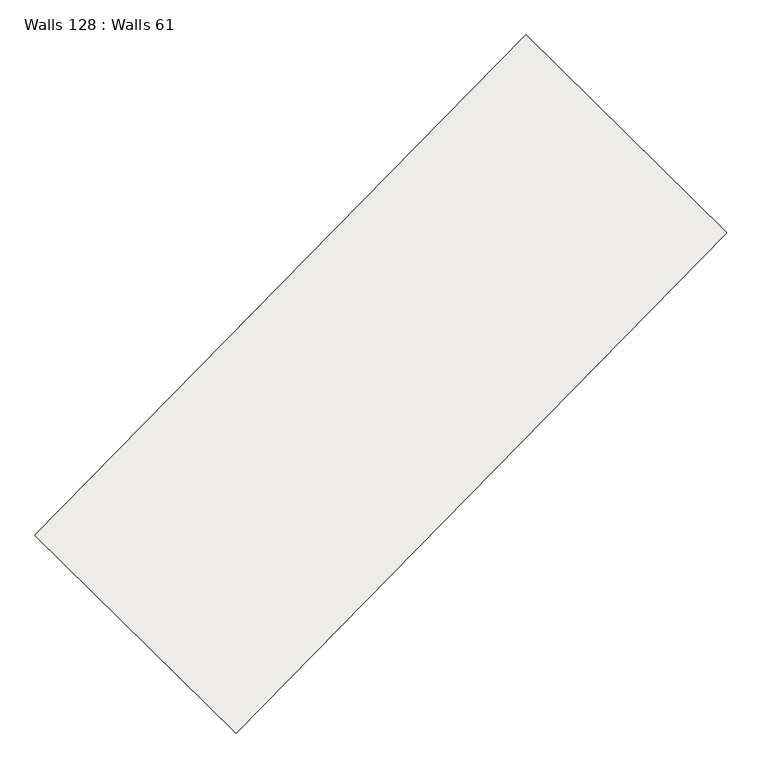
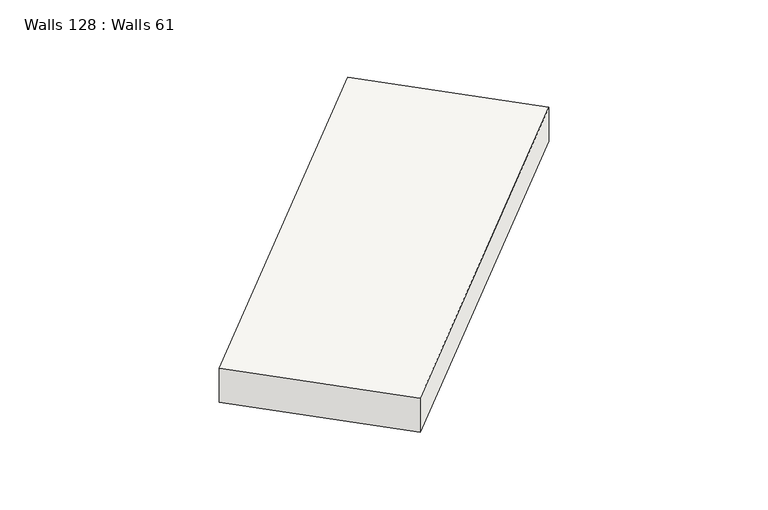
"""IFC4 building model written with IfcOpenShell, lengths in millimetres: slab geometry, Walls 128 : Walls 61."""

import ifcopenshell
import ifcopenshell.guid

model = None  # the IFC model being written
_history = None  # IfcOwnerHistory: only IFC2X3 demands one
_inside = {}  # id of a spatial element -> (the spatial element, [elements in it])
_under = {}  # id of a project, library or spatial element -> (it, [spatial elements below it])
_declared = {}  # id of a project -> (the project, [libraries it declares])
_typed = {}  # id of a type object -> (the type object, [elements of that type])
_made_of = {}  # id of a material, layer set ... -> (it, [elements and type objects made of it])


def new_model(schema):
    """Start an empty IFC model of exactly this schema.

    Asked for "IFC4X3", IfcOpenShell would pick the latest addendum, in which some entities
    have other attributes; the version numbers below select the first issue.
    IFC2X3 requires an IfcOwnerHistory on every rooted entity: one is made here for all.
    """
    global model, _history
    if schema == "IFC4X3":
        model = ifcopenshell.file(schema_version=(4, 3, 0, 0))
    else:
        model = ifcopenshell.file(schema=schema)
    _inside.clear()
    _under.clear()
    _declared.clear()
    _typed.clear()
    _made_of.clear()
    _history = None
    if model.schema == "IFC2X3":
        org = make("IfcOrganization", Name="unknown")
        user = make(
            "IfcPersonAndOrganization",
            ThePerson=make("IfcPerson", FamilyName="unknown"),
            TheOrganization=org,
        )
        app = make(
            "IfcApplication",
            ApplicationDeveloper=org,
            Version="unknown",
            ApplicationFullName="unknown",
            ApplicationIdentifier="unknown",
        )
        _history = make(
            "IfcOwnerHistory",
            OwningUser=user,
            OwningApplication=app,
            ChangeAction="ADDED",
            CreationDate=0,
        )
    return model


def make(cls, **values):
    """One entity of the class cls with the attributes given. An attribute that is None is left unset."""
    return model.create_entity(
        cls, **{name: value for name, value in values.items() if value is not None}
    )


def rooted(cls, **values):
    """An entity with a GlobalId (a new one), such as an element, a storey or a relation."""
    return make(cls, GlobalId=ifcopenshell.guid.new(), OwnerHistory=_history, **values)


def si_unit(unit_type, name, prefix=None):
    """IfcSIUnit, for example si_unit("LENGTHUNIT", "METRE", prefix="MILLI")."""
    return make("IfcSIUnit", UnitType=unit_type, Prefix=prefix, Name=name)


def assignment(units):
    """IfcUnitAssignment: the units of a project."""
    return None if units is None else make("IfcUnitAssignment", Units=units)


def point(xyz):
    """IfcCartesianPoint."""
    return None if xyz is None else make("IfcCartesianPoint", Coordinates=xyz)


def direction(xyz):
    """IfcDirection."""
    return None if xyz is None else make("IfcDirection", DirectionRatios=xyz)


def frame(location, z_axis=None, x_axis=None):
    """IfcAxis2Placement3D, a coordinate frame: its origin and axes. An axis left out is left unset."""
    return make(
        "IfcAxis2Placement3D",
        Location=point(location),
        Axis=direction(z_axis),
        RefDirection=direction(x_axis),
    )


def origin():
    """The frame at (0, 0, 0) with its axes left unset."""
    return frame((0.0, 0.0, 0.0))


def place(relative_to, where):
    """IfcLocalPlacement: puts the frame where relative to a parent placement (None: the world)."""
    return make(
        "IfcLocalPlacement", PlacementRelTo=relative_to, RelativePlacement=where
    )


def context(
    kind, dimensions, precision=None, world=None, true_north=None, identifier=None
):
    """IfcGeometricRepresentationContext, for example the 3D "Model" context."""
    return make(
        "IfcGeometricRepresentationContext",
        ContextIdentifier=identifier,
        ContextType=kind,
        CoordinateSpaceDimension=dimensions,
        Precision=precision,
        WorldCoordinateSystem=world,
        TrueNorth=true_north,
    )


def project(units=None, contexts=None):
    """IfcProject with its units and contexts."""
    return rooted(
        "IfcProject",
        Name="project",
        RepresentationContexts=contexts,
        UnitsInContext=assignment(units),
    )


def spatial(cls, under=None, at=None, **own):
    """A site, building, storey or space (cls), placed at a placement, below another one or the project."""
    s = rooted(cls, ObjectPlacement=at, **own)
    if under is not None:
        _under.setdefault(under.id(), (under, []))[1].append(s)
    return s


def polyline(points):
    """IfcPolyline through the points."""
    return make("IfcPolyline", Points=[point(p) for p in points])


def outline(outer, holes=None, kind="AREA"):
    """IfcArbitraryClosedProfileDef: a profile drawn as a closed curve; with holes, ...WithVoids."""
    if holes is None:
        return make("IfcArbitraryClosedProfileDef", ProfileType=kind, OuterCurve=outer)
    return make(
        "IfcArbitraryProfileDefWithVoids",
        ProfileType=kind,
        OuterCurve=outer,
        InnerCurves=holes,
    )


def extrude(swept, where, along, depth):
    """IfcExtrudedAreaSolid: the profile swept, set in the frame where, extruded along a direction by depth."""
    return make(
        "IfcExtrudedAreaSolid",
        SweptArea=swept,
        Position=where,
        ExtrudedDirection=direction(along),
        Depth=depth,
    )


def shape(context_of_items, identifier, shape_type, items):
    """IfcShapeRepresentation: the items that make up one representation, for example the "Body"."""
    return make(
        "IfcShapeRepresentation",
        ContextOfItems=context_of_items,
        RepresentationIdentifier=identifier,
        RepresentationType=shape_type,
        Items=items,
    )


def source(mapping_origin, context_of_items, identifier, shape_type, items):
    """IfcRepresentationMap: a shape defined once, which mapped items show again and again."""
    return make(
        "IfcRepresentationMap",
        MappingOrigin=mapping_origin,
        MappedRepresentation=shape(context_of_items, identifier, shape_type, items),
    )


def transform(
    local_origin,
    x_axis=None,
    y_axis=None,
    z_axis=None,
    scale=None,
    scale2=None,
    scale3=None,
    uniform=True,
):
    """IfcCartesianTransformationOperator3D, or its non-uniform kind. x_axis, y_axis, z_axis: its Axis1, 2, 3."""
    if uniform:
        return make(
            "IfcCartesianTransformationOperator3D",
            Axis1=direction(x_axis),
            Axis2=direction(y_axis),
            LocalOrigin=point(local_origin),
            Scale=scale,
            Axis3=direction(z_axis),
        )
    return make(
        "IfcCartesianTransformationOperator3DnonUniform",
        Axis1=direction(x_axis),
        Axis2=direction(y_axis),
        LocalOrigin=point(local_origin),
        Scale=scale,
        Axis3=direction(z_axis),
        Scale2=scale2,
        Scale3=scale3,
    )


def mapped(mapping_source, mapping_target):
    """IfcMappedItem: shows the shape of a source again, moved by a transform."""
    return make(
        "IfcMappedItem", MappingSource=mapping_source, MappingTarget=mapping_target
    )


def made_of(thing, what):
    """Note that an element or type object is made of a material, layer set ...; save() writes the relation."""
    if what is not None:
        _made_of.setdefault(what.id(), (what, []))[1].append(thing)
    return thing


def element(
    cls,
    number,
    at=None,
    inside=None,
    cuts=None,
    type_object=None,
    material=None,
    context=None,
    identifier="Body",
    shape_type=None,
    held_by="IfcProductDefinitionShape",
    body=None,
    shapes=None,
    **own,
):
    """One element of the class cls, such as IfcWall. Its Tag is "e" and its number.

    at: its placement. inside: the storey or other place that contains it. cuts: it is an
    opening in that element (IfcRelVoidsElement). A single representation is given by context,
    identifier, shape_type and body (its items); several are given by shapes. held_by: the class
    of the entity that holds the representations. save() writes the other relations.
    """
    e = rooted(cls, Tag="e%d" % number, ObjectPlacement=at, **own)
    if body is not None:
        shapes = [shape(context, identifier, shape_type, body)]
    if shapes is not None:
        e.Representation = make(held_by, Representations=shapes)
    if inside is not None:
        _inside.setdefault(inside.id(), (inside, []))[1].append(e)
    if cuts is not None:
        rooted(
            "IfcRelVoidsElement", RelatingBuildingElement=cuts, RelatedOpeningElement=e
        )
    if type_object is not None:
        _typed.setdefault(type_object.id(), (type_object, []))[1].append(e)
    return made_of(e, material)


def aggregate(whole, parts):
    """IfcRelAggregates: a whole, such as a stair, and the parts it consists of."""
    return rooted("IfcRelAggregates", RelatingObject=whole, RelatedObjects=parts)


def save(model, path):
    """Write the relations noted so far, then the file.

    IfcRelAggregates (storeys below a building ...), IfcRelContainedInSpatialStructure (elements
    in a storey), IfcRelDefinesByType, IfcRelAssociatesMaterial and IfcRelDeclares: one each for
    every whole, place, type object, material and project.
    """
    for whole, parts in _under.values():
        aggregate(whole, parts)
    for where, things in _inside.values():
        rooted(
            "IfcRelContainedInSpatialStructure",
            RelatedElements=things,
            RelatingStructure=where,
        )
    for kind, things in _typed.values():
        rooted("IfcRelDefinesByType", RelatedObjects=things, RelatingType=kind)
    for what, things in _made_of.values():
        rooted("IfcRelAssociatesMaterial", RelatedObjects=things, RelatingMaterial=what)
    for by, libraries in _declared.values():
        rooted("IfcRelDeclares", RelatingContext=by, RelatedDefinitions=libraries)
    model.write(path)


def walls_128_walls_61_11bc97e2(model_context):
    return source(origin(), model_context, "Body", "SweptSolid", [
        extrude(outline(polyline([(-350.0, 0.0), (350.0, 0.0), (260.0, -8700.0000009), (-440.0, -8700.0000009), (-350.0, 0.0)])), frame((-12208.7816663, -171643.1170511, 638270.0), z_axis=(-0.7137361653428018, 0.7004146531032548, 0.0), x_axis=(0.0, 0.0, 1.0)), (0.0, 0.0, 1.0), 3499.999995),
    ])


if __name__ == "__main__":
    model = new_model("IFC4")
    model_context = context("Model", 3, world=origin())
    ifc_project = project(units=[si_unit("LENGTHUNIT", "METRE", prefix="MILLI")], contexts=[model_context])
    site = spatial("IfcSite", under=ifc_project)
    building = spatial("IfcBuilding", under=site)
    placement = place(None, origin())
    walls_128_walls_61_shape = walls_128_walls_61_11bc97e2(model_context)
    element("IfcSlab", 1, ObjectType="Walls 128 : Walls 61", at=placement, inside=building, context=model_context, shape_type="MappedRepresentation", body=[
        mapped(walls_128_walls_61_shape, transform((0.0, 0.0, 0.0), x_axis=(1.0, 0.0, 0.0), y_axis=(0.0, 1.0, 0.0), z_axis=(0.0, 0.0, 1.0))),
    ])
    save(model, "model.ifc")
